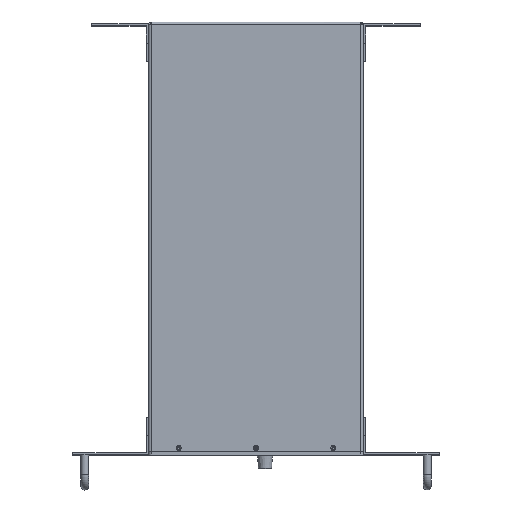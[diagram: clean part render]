
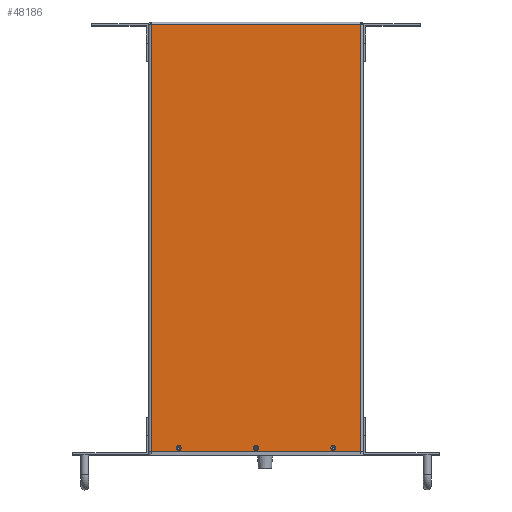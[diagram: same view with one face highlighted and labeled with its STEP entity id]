
A CAD part, top view. The second image highlights one B-rep face of the part: STEP entity #48186.
In plain terms, the highlighted planar face has unit normal (0, 0, 1) as drawn and (0, -1, 0) by its records, which use the part's own axes.
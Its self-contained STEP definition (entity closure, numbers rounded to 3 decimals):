
#1615=LINE('',#70336,#6198);
#2339=LINE('',#73314,#6922);
#4458=LINE('',#78983,#9041);
#4462=LINE('',#78991,#9045);
#6198=VECTOR('',#56631,276.3);
#6922=VECTOR('',#58811,562.9);
#9041=VECTOR('',#65184,562.9);
#9045=VECTOR('',#65196,276.3);
#10574=PLANE('',#52446);
#13049=FACE_BOUND('',#19153,.T.);
#13050=FACE_BOUND('',#19154,.T.);
#13051=FACE_BOUND('',#19155,.T.);
#15390=FACE_OUTER_BOUND('',#19152,.T.);
#19152=EDGE_LOOP('',(#44962,#44963,#44964,#44965));
#19153=EDGE_LOOP('',(#44966));
#19154=EDGE_LOOP('',(#44967));
#19155=EDGE_LOOP('',(#44968));
#19940=CIRCLE('',#49565,3.25);
#19943=CIRCLE('',#49570,3.25);
#19946=CIRCLE('',#49575,3.25);
#22863=VERTEX_POINT('',#70243);
#22866=VERTEX_POINT('',#70251);
#22869=VERTEX_POINT('',#70259);
#22878=VERTEX_POINT('',#70327);
#22879=VERTEX_POINT('',#70335);
#24298=VERTEX_POINT('',#73313);
#25721=VERTEX_POINT('',#78981);
#27912=EDGE_CURVE('',#22863,#22863,#19940,.T.);
#27915=EDGE_CURVE('',#22866,#22866,#19943,.T.);
#27918=EDGE_CURVE('',#22869,#22869,#19946,.T.);
#27935=EDGE_CURVE('',#22879,#22878,#1615,.T.);
#29377=EDGE_CURVE('',#24298,#22879,#2339,.T.);
#32208=EDGE_CURVE('',#22878,#25721,#4458,.T.);
#32212=EDGE_CURVE('',#24298,#25721,#4462,.T.);
#44962=ORIENTED_EDGE('',*,*,#27935,.T.);
#44963=ORIENTED_EDGE('',*,*,#32208,.T.);
#44964=ORIENTED_EDGE('',*,*,#32212,.F.);
#44965=ORIENTED_EDGE('',*,*,#29377,.T.);
#44966=ORIENTED_EDGE('',*,*,#27912,.T.);
#44967=ORIENTED_EDGE('',*,*,#27915,.T.);
#44968=ORIENTED_EDGE('',*,*,#27918,.T.);
#48186=ADVANCED_FACE('',(#15390,#13049,#13050,#13051),#10574,.F.);
#49565=AXIS2_PLACEMENT_3D('',#70244,#56577,#56578);
#49570=AXIS2_PLACEMENT_3D('',#70252,#56587,#56588);
#49575=AXIS2_PLACEMENT_3D('',#70260,#56597,#56598);
#52446=AXIS2_PLACEMENT_3D('',#78990,#65194,#65195);
#56577=DIRECTION('center_axis',(0.,1.,0.));
#56578=DIRECTION('ref_axis',(1.,0.,0.));
#56587=DIRECTION('center_axis',(0.,1.,0.));
#56588=DIRECTION('ref_axis',(1.,0.,0.));
#56597=DIRECTION('center_axis',(0.,1.,0.));
#56598=DIRECTION('ref_axis',(1.,0.,0.));
#56631=DIRECTION('',(0.,0.,-1.));
#58811=DIRECTION('',(-1.,0.,0.));
#65184=DIRECTION('',(1.,0.,0.));
#65194=DIRECTION('center_axis',(0.,1.,0.));
#65195=DIRECTION('ref_axis',(0.,0.,1.));
#65196=DIRECTION('',(0.,0.,-1.));
#70243=CARTESIAN_POINT('',(564.95,0.,-141.75));
#70244=CARTESIAN_POINT('Origin',(561.7,0.,-141.75));
#70251=CARTESIAN_POINT('',(564.95,0.,-243.5));
#70252=CARTESIAN_POINT('Origin',(561.7,0.,-243.5));
#70259=CARTESIAN_POINT('',(564.95,0.,-40.));
#70260=CARTESIAN_POINT('Origin',(561.7,0.,-40.));
#70327=CARTESIAN_POINT('',(3.6,0.,-279.9));
#70335=CARTESIAN_POINT('',(3.6,0.,-3.6));
#70336=CARTESIAN_POINT('',(3.6,0.,-72.675));
#73313=CARTESIAN_POINT('',(566.5,0.,-3.6));
#73314=CARTESIAN_POINT('',(424.875,0.,-3.6));
#78981=CARTESIAN_POINT('',(566.5,0.,-279.9));
#78983=CARTESIAN_POINT('',(141.625,0.,-279.9));
#78990=CARTESIAN_POINT('Origin',(283.25,0.,-141.75));
#78991=CARTESIAN_POINT('',(566.5,0.,0.));
